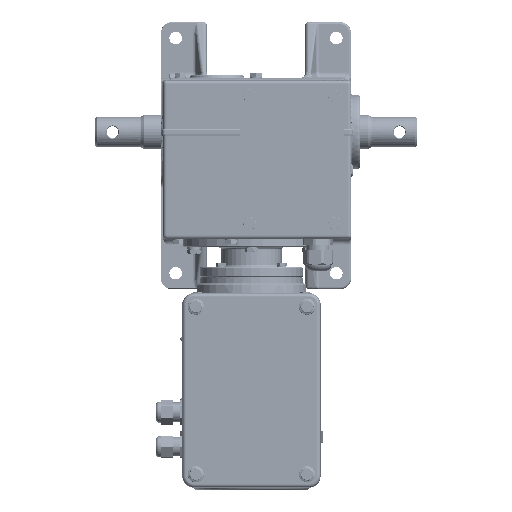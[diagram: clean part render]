
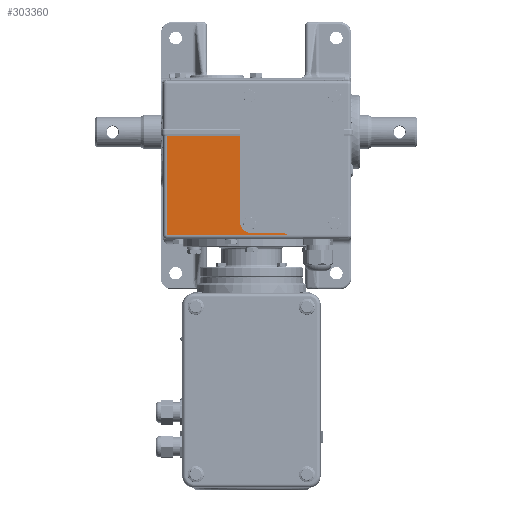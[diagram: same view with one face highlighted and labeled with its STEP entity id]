
A CAD part, front view. The second image highlights one B-rep face of the part: STEP entity #303360.
In plain terms, the highlighted planar face has unit normal (0, -1, 0).
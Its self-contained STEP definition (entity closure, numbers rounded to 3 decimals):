
#9485 = VECTOR ( 'NONE', #301904, 1000. ) ;
#10786 = EDGE_CURVE ( 'NONE', #456326, #138300, #442503, .T. ) ;
#30775 = DIRECTION ( 'NONE',  ( 0., 0., -1. ) ) ;
#37885 = AXIS2_PLACEMENT_3D ( 'NONE', #147280, #109847, #378784 ) ;
#49248 = ORIENTED_EDGE ( 'NONE', *, *, #244360, .F. ) ;
#51039 = CARTESIAN_POINT ( 'NONE',  ( 115., -105., -90. ) ) ;
#51313 = EDGE_CURVE ( 'NONE', #245489, #223700, #366788, .T. ) ;
#54936 = FACE_OUTER_BOUND ( 'NONE', #136553, .T. ) ;
#60573 = CARTESIAN_POINT ( 'NONE',  ( -44., -105., -90. ) ) ;
#70278 = CARTESIAN_POINT ( 'NONE',  ( -44., -105., 47. ) ) ;
#80510 = EDGE_CURVE ( 'NONE', #223700, #463279, #324253, .T. ) ;
#88312 = CARTESIAN_POINT ( 'NONE',  ( 64.5, -105., -80. ) ) ;
#101507 = CARTESIAN_POINT ( 'NONE',  ( 20., -105., -3. ) ) ;
#109847 = DIRECTION ( 'NONE',  ( 0., -1., 0. ) ) ;
#117641 = ORIENTED_EDGE ( 'NONE', *, *, #160757, .F. ) ;
#134693 = DIRECTION ( 'NONE',  ( -1., 0., 0. ) ) ;
#136553 = EDGE_LOOP ( 'NONE', ( #49248, #476785, #247975, #137923, #461818, #336726, #117641 ) ) ;
#137923 = ORIENTED_EDGE ( 'NONE', *, *, #149234, .T. ) ;
#138300 = VERTEX_POINT ( 'NONE', #355635 ) ;
#147280 = CARTESIAN_POINT ( 'NONE',  ( 30., -105., -78. ) ) ;
#149234 = EDGE_CURVE ( 'NONE', #151792, #463279, #310280, .T. ) ;
#151792 = VERTEX_POINT ( 'NONE', #60573 ) ;
#157547 = AXIS2_PLACEMENT_3D ( 'NONE', #475934, #440954, #134693 ) ;
#158470 = DIRECTION ( 'NONE',  ( 1., 0., 0. ) ) ;
#160757 = EDGE_CURVE ( 'NONE', #213204, #245489, #181441, .T. ) ;
#160931 = LINE ( 'NONE', #464764, #255900 ) ;
#178582 = CARTESIAN_POINT ( 'NONE',  ( -44., -105., -3. ) ) ;
#181441 = CIRCLE ( 'NONE', #37885, 10. ) ;
#194880 = LINE ( 'NONE', #70278, #9485 ) ;
#211284 = CARTESIAN_POINT ( 'NONE',  ( 64.5, -105., -90. ) ) ;
#213204 = VERTEX_POINT ( 'NONE', #480720 ) ;
#216554 = EDGE_CURVE ( 'NONE', #138300, #151792, #194880, .T. ) ;
#223700 = VERTEX_POINT ( 'NONE', #464154 ) ;
#240303 = DIRECTION ( 'NONE',  ( 0., -1., 0. ) ) ;
#244360 = EDGE_CURVE ( 'NONE', #456326, #213204, #160931, .T. ) ;
#244401 = PLANE ( 'NONE',  #157547 ) ;
#245489 = VERTEX_POINT ( 'NONE', #340407 ) ;
#247975 = ORIENTED_EDGE ( 'NONE', *, *, #216554, .T. ) ;
#255900 = VECTOR ( 'NONE', #30775, 1000. ) ;
#301904 = DIRECTION ( 'NONE',  ( 0., 0., -1. ) ) ;
#303360 = ADVANCED_FACE ( 'NONE', ( #54936 ), #244401, .F. ) ;
#310280 = LINE ( 'NONE', #51039, #435564 ) ;
#324253 = CIRCLE ( 'NONE', #403977, 10. ) ;
#336726 = ORIENTED_EDGE ( 'NONE', *, *, #51313, .F. ) ;
#340407 = CARTESIAN_POINT ( 'NONE',  ( 30., -105., -88. ) ) ;
#355635 = CARTESIAN_POINT ( 'NONE',  ( -44., -105., -3. ) ) ;
#366788 = LINE ( 'NONE', #371672, #487952 ) ;
#371672 = CARTESIAN_POINT ( 'NONE',  ( 101., -105., -88. ) ) ;
#378784 = DIRECTION ( 'NONE',  ( -1., 0., 0. ) ) ;
#392209 = DIRECTION ( 'NONE',  ( 1., 0., 0. ) ) ;
#403977 = AXIS2_PLACEMENT_3D ( 'NONE', #88312, #240303, #392209 ) ;
#431373 = VECTOR ( 'NONE', #435164, 1000. ) ;
#435164 = DIRECTION ( 'NONE',  ( -1., 0., 0. ) ) ;
#435564 = VECTOR ( 'NONE', #158470, 1000. ) ;
#439033 = DIRECTION ( 'NONE',  ( 1., 0., 0. ) ) ;
#440954 = DIRECTION ( 'NONE',  ( 0., 1., 0. ) ) ;
#442503 = LINE ( 'NONE', #178582, #431373 ) ;
#456326 = VERTEX_POINT ( 'NONE', #101507 ) ;
#461818 = ORIENTED_EDGE ( 'NONE', *, *, #80510, .F. ) ;
#463279 = VERTEX_POINT ( 'NONE', #211284 ) ;
#464154 = CARTESIAN_POINT ( 'NONE',  ( 58.5, -105., -88. ) ) ;
#464764 = CARTESIAN_POINT ( 'NONE',  ( 20., -105., -78. ) ) ;
#475934 = CARTESIAN_POINT ( 'NONE',  ( 117., -105., 47. ) ) ;
#476785 = ORIENTED_EDGE ( 'NONE', *, *, #10786, .T. ) ;
#480720 = CARTESIAN_POINT ( 'NONE',  ( 20., -105., -78. ) ) ;
#487952 = VECTOR ( 'NONE', #439033, 1000. ) ;
